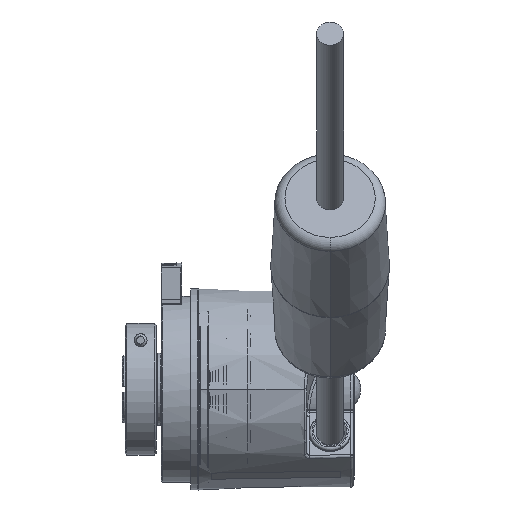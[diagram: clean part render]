
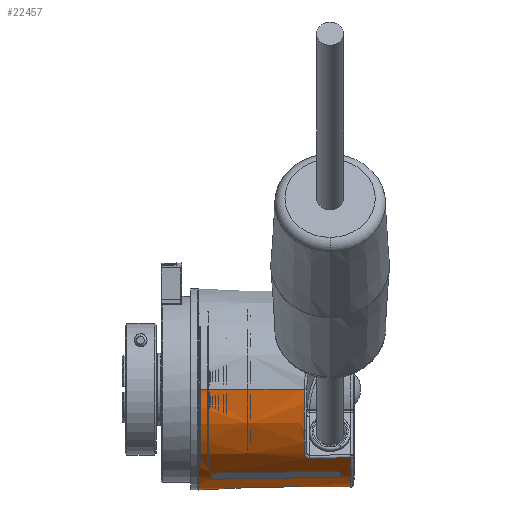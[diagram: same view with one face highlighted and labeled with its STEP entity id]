
A CAD part, front view. The second image highlights one B-rep face of the part: STEP entity #22457.
In plain terms, the highlighted conical face has half-angle 1 degrees and reference radius 18.976 mm.
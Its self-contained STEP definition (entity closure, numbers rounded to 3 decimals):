
#240 = EDGE_CURVE ( 'NONE', #20292, #23317, #11280, .T. ) ;
#242 = EDGE_CURVE ( 'NONE', #20075, #23317, #11281, .T. ) ;
#245 = EDGE_CURVE ( 'NONE', #23110, #23170, #11282, .T. ) ;
#247 = EDGE_CURVE ( 'NONE', #23173, #23170, #21991, .T. ) ;
#249 = EDGE_CURVE ( 'NONE', #23173, #20648, #11283, .T. ) ;
#252 = EDGE_CURVE ( 'NONE', #20951, #20999, #21996, .T. ) ;
#255 = EDGE_CURVE ( 'NONE', #20292, #23326, #22000, .T. ) ;
#256 = EDGE_CURVE ( 'NONE', #20648, #23110, #22003, .T. ) ;
#368 = AXIS2_PLACEMENT_3D ( 'NONE', #18816, #18817, #18818 ) ;
#371 = AXIS2_PLACEMENT_3D ( 'NONE', #18833, #18834, #18835 ) ;
#373 = AXIS2_PLACEMENT_3D ( 'NONE', #18840, #18841, #18842 ) ;
#374 = AXIS2_PLACEMENT_3D ( 'NONE', #18844, #18845, #18846 ) ;
#9708 = FACE_OUTER_BOUND ( 'NONE', #21679, .T. ) ;
#9714 = FACE_BOUND ( 'NONE', #21244, .T. ) ;
#9717 = CONICAL_SURFACE ( 'NONE', #34653, 18.976, 0.017 ) ;
#11280 = B_SPLINE_CURVE_WITH_KNOTS ( 'NONE', 3,
 ( #18785, #18784, #18759, #18786, #18787, #18788, #18789, #18790, #18791, #18792 ),
 .UNSPECIFIED., .F., .F.,
 ( 4, 2, 2, 2, 4 ),
 ( 0., 0., 0.001, 0.001, 0.002 ),
 .UNSPECIFIED. ) ;
#11281 = B_SPLINE_CURVE_WITH_KNOTS ( 'NONE', 3,
 ( #18795, #18794, #18797, #18798, #18799, #18800, #18801, #18802, #18803, #18804 ),
 .UNSPECIFIED., .F., .F.,
 ( 4, 3, 3, 4 ),
 ( 0., 0.001, 0.005, 0.008 ),
 .UNSPECIFIED. ) ;
#11282 = B_SPLINE_CURVE_WITH_KNOTS ( 'NONE', 3,
 ( #18811, #18810, #18796, #18812 ),
 .UNSPECIFIED., .F., .F.,
 ( 4, 4 ),
 ( 0., 0.025 ),
 .UNSPECIFIED. ) ;
#11283 = B_SPLINE_CURVE_WITH_KNOTS ( 'NONE', 3,
 ( #18824, #18819, #18820, #18825 ),
 .UNSPECIFIED., .F., .F.,
 ( 4, 4 ),
 ( 0., 0.025 ),
 .UNSPECIFIED. ) ;
#13659 = CARTESIAN_POINT ( 'NONE',  ( 36.709, 0., 0. ) ) ;
#13661 = DIRECTION ( 'NONE',  ( -1., 0., 0. ) ) ;
#13664 = DIRECTION ( 'NONE',  ( 0., 1., 0. ) ) ;
#17082 = DIRECTION ( 'NONE',  ( 0., -1., 0. ) ) ;
#17084 = CARTESIAN_POINT ( 'NONE',  ( 37.2, 0., 0. ) ) ;
#17085 = DIRECTION ( 'NONE',  ( -1., 0., 0. ) ) ;
#18759 = CARTESIAN_POINT ( 'NONE',  ( 27.733, -14.216, -12.819 ) ) ;
#18784 = CARTESIAN_POINT ( 'NONE',  ( 27.709, -14.307, -12.718 ) ) ;
#18785 = CARTESIAN_POINT ( 'NONE',  ( 27.709, -14.397, -12.615 ) ) ;
#18786 = CARTESIAN_POINT ( 'NONE',  ( 27.827, -14.044, -13.005 ) ) ;
#18787 = CARTESIAN_POINT ( 'NONE',  ( 27.898, -13.961, -13.091 ) ) ;
#18788 = CARTESIAN_POINT ( 'NONE',  ( 28.079, -13.821, -13.235 ) ) ;
#18789 = CARTESIAN_POINT ( 'NONE',  ( 28.19, -13.762, -13.293 ) ) ;
#18790 = CARTESIAN_POINT ( 'NONE',  ( 28.437, -13.681, -13.37 ) ) ;
#18791 = CARTESIAN_POINT ( 'NONE',  ( 28.572, -13.659, -13.389 ) ) ;
#18792 = CARTESIAN_POINT ( 'NONE',  ( 28.709, -13.658, -13.387 ) ) ;
#18794 = CARTESIAN_POINT ( 'NONE',  ( 36.375, -13.589, -13.266 ) ) ;
#18795 = CARTESIAN_POINT ( 'NONE',  ( 36.709, -13.586, -13.261 ) ) ;
#18796 = CARTESIAN_POINT ( 'NONE',  ( 26.367, -8.543, -17.156 ) ) ;
#18797 = CARTESIAN_POINT ( 'NONE',  ( 36.042, -13.592, -13.271 ) ) ;
#18798 = CARTESIAN_POINT ( 'NONE',  ( 35.709, -13.595, -13.277 ) ) ;
#18799 = CARTESIAN_POINT ( 'NONE',  ( 34.376, -13.607, -13.298 ) ) ;
#18800 = CARTESIAN_POINT ( 'NONE',  ( 33.043, -13.619, -13.319 ) ) ;
#18801 = CARTESIAN_POINT ( 'NONE',  ( 31.71, -13.631, -13.34 ) ) ;
#18802 = CARTESIAN_POINT ( 'NONE',  ( 30.709, -13.64, -13.356 ) ) ;
#18803 = CARTESIAN_POINT ( 'NONE',  ( 29.709, -13.649, -13.371 ) ) ;
#18804 = CARTESIAN_POINT ( 'NONE',  ( 28.709, -13.658, -13.387 ) ) ;
#18810 = CARTESIAN_POINT ( 'NONE',  ( 18.033, -8.611, -17.284 ) ) ;
#18811 = CARTESIAN_POINT ( 'NONE',  ( 9.7, -8.68, -17.413 ) ) ;
#18812 = CARTESIAN_POINT ( 'NONE',  ( 34.7, -8.474, -17.028 ) ) ;
#18816 = CARTESIAN_POINT ( 'NONE',  ( 34.7, 0., 0. ) ) ;
#18817 = DIRECTION ( 'NONE',  ( 1., 0., 0. ) ) ;
#18818 = DIRECTION ( 'NONE',  ( 0., -1., 0. ) ) ;
#18819 = CARTESIAN_POINT ( 'NONE',  ( 26.367, -10.586, -15.976 ) ) ;
#18820 = CARTESIAN_POINT ( 'NONE',  ( 18.033, -10.663, -16.1 ) ) ;
#18824 = CARTESIAN_POINT ( 'NONE',  ( 34.7, -10.51, -15.853 ) ) ;
#18825 = CARTESIAN_POINT ( 'NONE',  ( 9.7, -10.74, -16.224 ) ) ;
#18833 = CARTESIAN_POINT ( 'NONE',  ( 7.2, 0., 0. ) ) ;
#18834 = DIRECTION ( 'NONE',  ( 1., 0., 0. ) ) ;
#18835 = DIRECTION ( 'NONE',  ( 0., 1., 0. ) ) ;
#18840 = CARTESIAN_POINT ( 'NONE',  ( 27.709, 0., 0. ) ) ;
#18841 = DIRECTION ( 'NONE',  ( -1., 0., 0. ) ) ;
#18842 = DIRECTION ( 'NONE',  ( 0., 1., 0. ) ) ;
#18844 = CARTESIAN_POINT ( 'NONE',  ( 9.7, 0., 0. ) ) ;
#18845 = DIRECTION ( 'NONE',  ( 1., 0., 0. ) ) ;
#18846 = DIRECTION ( 'NONE',  ( 0., -1., 0. ) ) ;
#20075 = VERTEX_POINT ( 'NONE', #38993 ) ;
#20292 = VERTEX_POINT ( 'NONE', #39206 ) ;
#20648 = VERTEX_POINT ( 'NONE', #39562 ) ;
#20951 = VERTEX_POINT ( 'NONE', #39865 ) ;
#20999 = VERTEX_POINT ( 'NONE', #39913 ) ;
#21244 = EDGE_LOOP ( 'NONE', ( #46334, #46363, #46341, #46350 ) ) ;
#21679 = EDGE_LOOP ( 'NONE', ( #46399, #46403, #46220, #45610, #45616, #45517, #46335 ) ) ;
#21991 = CIRCLE ( 'NONE', #368, 19.02 ) ;
#21996 = CIRCLE ( 'NONE', #371, 19.5 ) ;
#22000 = CIRCLE ( 'NONE', #373, 19.142 ) ;
#22003 = CIRCLE ( 'NONE', #374, 19.456 ) ;
#22457 = ADVANCED_FACE ( 'NONE', ( #9708, #9714 ), #9717, .T. ) ;
#23081 = VERTEX_POINT ( 'NONE', #38138 ) ;
#23110 = VERTEX_POINT ( 'NONE', #38167 ) ;
#23170 = VERTEX_POINT ( 'NONE', #38229 ) ;
#23173 = VERTEX_POINT ( 'NONE', #38232 ) ;
#23317 = VERTEX_POINT ( 'NONE', #38376 ) ;
#23326 = VERTEX_POINT ( 'NONE', #38385 ) ;
#25854 = EDGE_CURVE ( 'NONE', #23326, #20951, #42461, .T. ) ;
#25870 = EDGE_CURVE ( 'NONE', #23081, #20999, #42478, .T. ) ;
#26065 = EDGE_CURVE ( 'NONE', #23081, #20075, #42651, .T. ) ;
#30546 = DIRECTION ( 'NONE',  ( -1., -0.017, 0. ) ) ;
#30548 = CARTESIAN_POINT ( 'NONE',  ( 37.2, -18.976, 0. ) ) ;
#30646 = DIRECTION ( 'NONE',  ( -1., 0.017, 0. ) ) ;
#30648 = CARTESIAN_POINT ( 'NONE',  ( 37.2, 18.976, 0. ) ) ;
#30940 = AXIS2_PLACEMENT_3D ( 'NONE', #13659, #13661, #13664 ) ;
#34653 = AXIS2_PLACEMENT_3D ( 'NONE', #17084, #17085, #17082 ) ;
#38138 = CARTESIAN_POINT ( 'NONE',  ( 36.709, 18.985, 0. ) ) ;
#38167 = CARTESIAN_POINT ( 'NONE',  ( 9.7, -8.68, -17.413 ) ) ;
#38229 = CARTESIAN_POINT ( 'NONE',  ( 34.7, -8.474, -17.028 ) ) ;
#38232 = CARTESIAN_POINT ( 'NONE',  ( 34.7, -10.51, -15.853 ) ) ;
#38376 = CARTESIAN_POINT ( 'NONE',  ( 28.709, -13.658, -13.387 ) ) ;
#38385 = CARTESIAN_POINT ( 'NONE',  ( 27.709, -19.142, 0. ) ) ;
#38993 = CARTESIAN_POINT ( 'NONE',  ( 36.709, -13.586, -13.261 ) ) ;
#39206 = CARTESIAN_POINT ( 'NONE',  ( 27.709, -14.397, -12.615 ) ) ;
#39562 = CARTESIAN_POINT ( 'NONE',  ( 9.7, -10.74, -16.224 ) ) ;
#39865 = CARTESIAN_POINT ( 'NONE',  ( 7.2, -19.5, 0. ) ) ;
#39913 = CARTESIAN_POINT ( 'NONE',  ( 7.2, 19.5, 0. ) ) ;
#42461 = LINE ( 'NONE', #30548, #42463 ) ;
#42463 = VECTOR ( 'NONE', #30546, 1000. ) ;
#42478 = LINE ( 'NONE', #30648, #42480 ) ;
#42480 = VECTOR ( 'NONE', #30646, 1000. ) ;
#42651 = CIRCLE ( 'NONE', #30940, 18.985 ) ;
#45517 = ORIENTED_EDGE ( 'NONE', *, *, #25854, .T. ) ;
#45610 = ORIENTED_EDGE ( 'NONE', *, *, #240, .F. ) ;
#45616 = ORIENTED_EDGE ( 'NONE', *, *, #255, .T. ) ;
#46220 = ORIENTED_EDGE ( 'NONE', *, *, #242, .T. ) ;
#46334 = ORIENTED_EDGE ( 'NONE', *, *, #249, .F. ) ;
#46335 = ORIENTED_EDGE ( 'NONE', *, *, #252, .T. ) ;
#46341 = ORIENTED_EDGE ( 'NONE', *, *, #245, .F. ) ;
#46350 = ORIENTED_EDGE ( 'NONE', *, *, #256, .F. ) ;
#46363 = ORIENTED_EDGE ( 'NONE', *, *, #247, .T. ) ;
#46399 = ORIENTED_EDGE ( 'NONE', *, *, #25870, .F. ) ;
#46403 = ORIENTED_EDGE ( 'NONE', *, *, #26065, .T. ) ;
